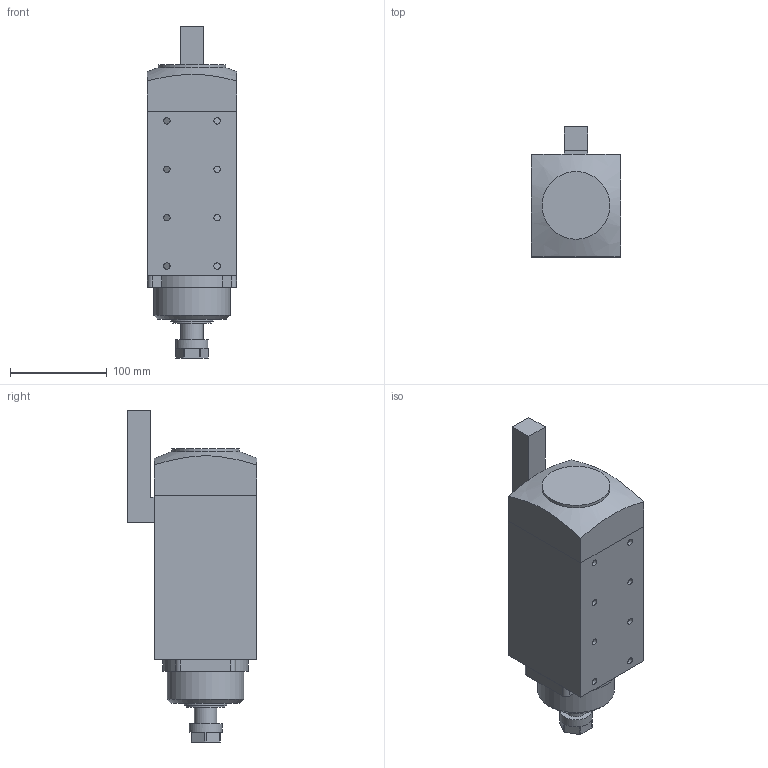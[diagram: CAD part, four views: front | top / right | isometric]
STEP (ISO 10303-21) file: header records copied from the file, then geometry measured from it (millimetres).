
FILE_DESCRIPTION(('STEP AP214'), '1');
FILE_NAME('AS-2200 - 崶鴈麧錪', '', ('UNSPECIFIED'), ('UNSPECIFIED'), 'ASCON STEP Converter 1.3', 'ASCON Math Kernel', '');
FILE_SCHEMA(('AUTOMOTIVE_DESIGN { 1 0 10303 214 3 1 1}'));
Length unit declared in the file: millimetre
Products named in the file (1): AS-2200
Bounding box: 92 x 134 x 343 mm (x, y, z)
Volume: 1211286.2 mm3; surface area: 266893.3 mm2
Topology: 4 solids, 4 shells, 89 faces, 223 edges, 148 vertices
Faces by surface type: plane 62, cylinder 25, cone 2
Full cylindrical faces by diameter (mm): 6.647 x8, 23 x1, 34 x1, 40 x1, 44 x1, 70 x1, 79 x1, 86.692 x1
Entity records: 3564 total; most frequent: CARTESIAN_POINT 622, DIRECTION 444, ORIENTED_EDGE 412, EDGE_CURVE 206, AXIS2_PLACEMENT_3D 153, VERTEX_POINT 148, LINE 138, VECTOR 138
